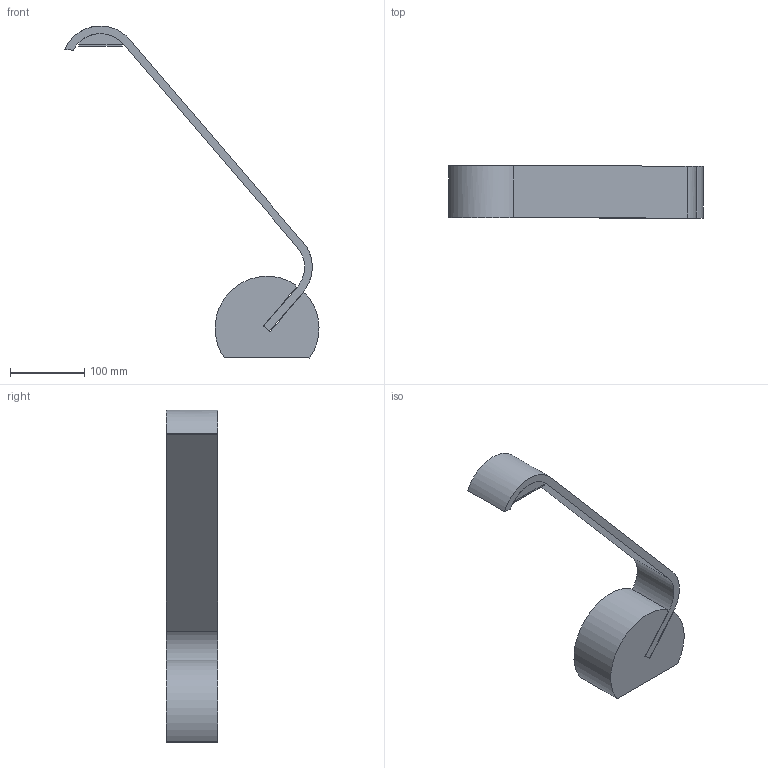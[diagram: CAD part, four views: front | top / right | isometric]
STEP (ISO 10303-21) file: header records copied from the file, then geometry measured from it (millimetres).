
FILE_DESCRIPTION(/* description */ (''),/* implementation_level */ '2;1');
FILE_NAME(/* name */ 'bloco plyc2',/* time_stamp */ '2023-05-06T19:58:59-03:00',/* author */ (''),/* organization */ (''),/* preprocessor_version */ 'ST-DEVELOPER v15',/* originating_system */ '',/* authorisation */ '');
FILE_SCHEMA (('AUTOMOTIVE_DESIGN'));
Length unit declared in the file: millimetre
Products named in the file (1): Document
Bounding box: 342.09 x 70 x 446.99 mm (x, y, z)
Volume: 1322816.5 mm3; surface area: 177252.2 mm2
Topology: 4 solids, 4 shells, 34 faces, 78 edges, 52 vertices
Faces by surface type: plane 19, bspline 15
Entity records: 916 total; most frequent: CARTESIAN_POINT 389, ORIENTED_EDGE 156, EDGE_CURVE 78, VERTEX_POINT 52, B_SPLINE_CURVE_WITH_KNOTS 48, ADVANCED_FACE 34, FACE_OUTER_BOUND 34, EDGE_LOOP 34
